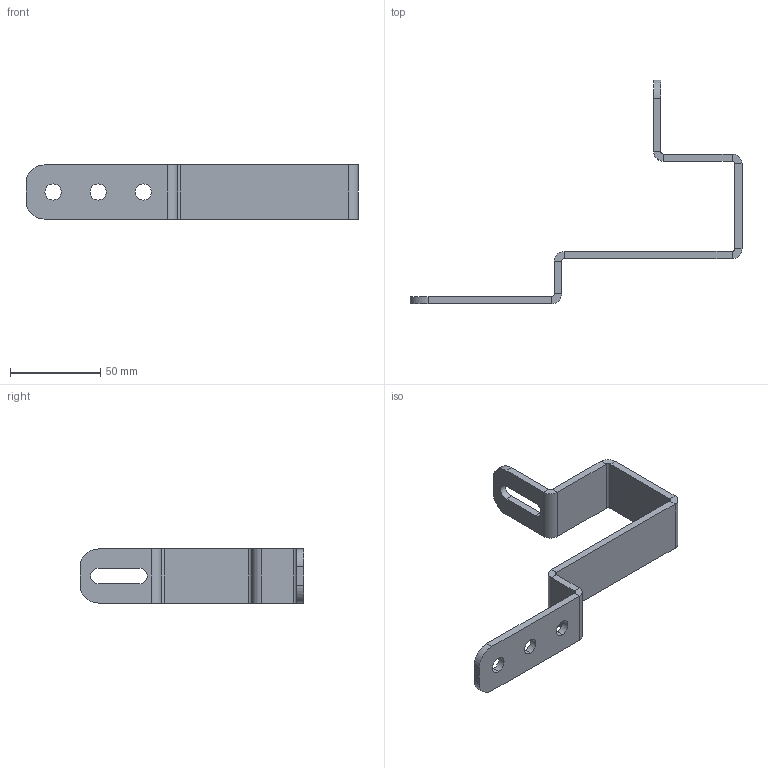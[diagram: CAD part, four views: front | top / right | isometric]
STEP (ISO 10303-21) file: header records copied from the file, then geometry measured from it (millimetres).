
FILE_DESCRIPTION (( 'STEP AP203' ), '1' );
FILE_NAME ('084.106.129.STEP', '2013-01-23T10:27:04', ( 'Alusic' ), ( 'Alusic' ), 'SwSTEP 2.0', 'SolidWorks 2011', '' );
FILE_SCHEMA (( 'CONFIG_CONTROL_DESIGN' ));
Length unit declared in the file: millimetre
Products named in the file (1): 084.106.129
Bounding box: 184 x 124 x 30 mm (x, y, z)
Volume: 38862.9 mm3; surface area: 22964.8 mm2
Topology: 1 solids, 1 shells, 60 faces, 134 edges, 76 vertices
Faces by surface type: plane 38, cylinder 22
Entity records: 1715 total; most frequent: DIRECTION 300, CARTESIAN_POINT 271, ORIENTED_EDGE 268, EDGE_CURVE 134, AXIS2_PLACEMENT_3D 105, VECTOR 90, LINE 90, VERTEX_POINT 76
